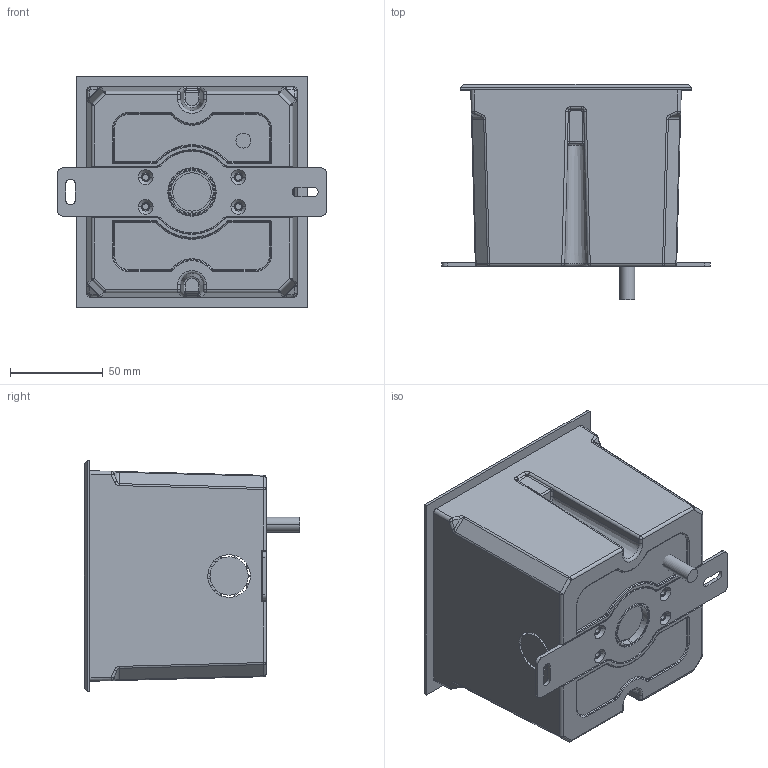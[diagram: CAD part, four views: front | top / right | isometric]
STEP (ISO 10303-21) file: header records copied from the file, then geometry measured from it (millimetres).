
FILE_DESCRIPTION((''),'2;1');
FILE_NAME('2H_ASM_ASM','2024-11-22T',('Administrator'),(''),'CREO PARAMETRIC BY PTC INC, 2014500','CREO PARAMETRIC BY PTC INC, 2014500','');
FILE_SCHEMA(('CONFIG_CONTROL_DESIGN'));
Length unit declared in the file: millimetre
Products named in the file (22): AL-2H01-DT_74; AL-2H01-FSLM_73; AL-2G01-FSQ_74; AL-2H01-MG_73; AL-2H01-BL_75; 2HSANREBAN_73; 3H-COB_75; SANREBAN-000_74; 3ELTOUGUANGZHAO_71; 3ELGYB_71; XINLVJIBAN-00_10; LENS-00_45_10; C20_ASM_10_ASM; 3ELXGYB_ASM_71_ASM; FANGGUANQUAN-2H_79; 2HFGB_52; XIANCAI_25; 2H_ASM_74_ASM; 2H; 7SQW18_FL2_15_6; 00_ASM; 2H_ASM_ASM
Assembly tree (21 placements, depth 5):
  2H_ASM_ASM
    2H_ASM_74_ASM
      AL-2H01-DT_74
      AL-2H01-FSLM_73
      AL-2G01-FSQ_74
      AL-2H01-MG_73
      AL-2H01-BL_75
      2HSANREBAN_73
      3H-COB_75
      3ELXGYB_ASM_71_ASM
        SANREBAN-000_74
        3ELTOUGUANGZHAO_71
        3ELGYB_71
        C20_ASM_10_ASM
          XINLVJIBAN-00_10
          LENS-00_45_10
      FANGGUANQUAN-2H_79
      2HFGB_52
      XIANCAI_25
    00_ASM
      2H
      7SQW18_FL2_15_6
Bounding box: 145 x 116 x 125 mm (x, y, z)
Volume: 367924.7 mm3; surface area: 307927.9 mm2
Topology: 17 solids, 17 shells, 1604 faces, 4173 edges, 2674 vertices
Faces by surface type: plane 781, cylinder 560, cone 88, torus 82, bspline 58, sphere 28, extrusion 7
Entity records: 54691 total; most frequent: CARTESIAN_POINT 14627, ORIENTED_EDGE 8330, DIRECTION 8148, EDGE_CURVE 4165, AXIS2_PLACEMENT_3D 2768, VERTEX_POINT 2674, VECTOR 2612, LINE 2605
